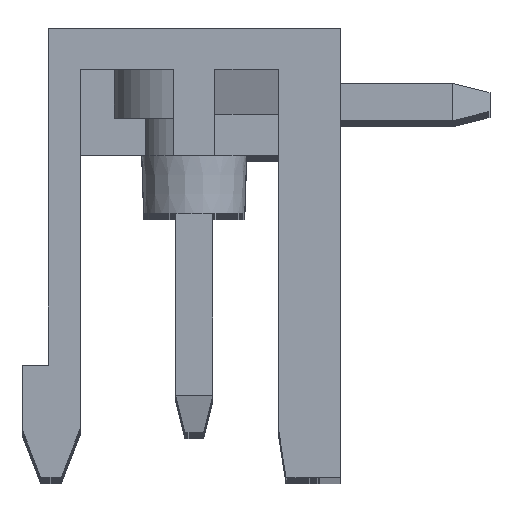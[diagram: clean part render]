
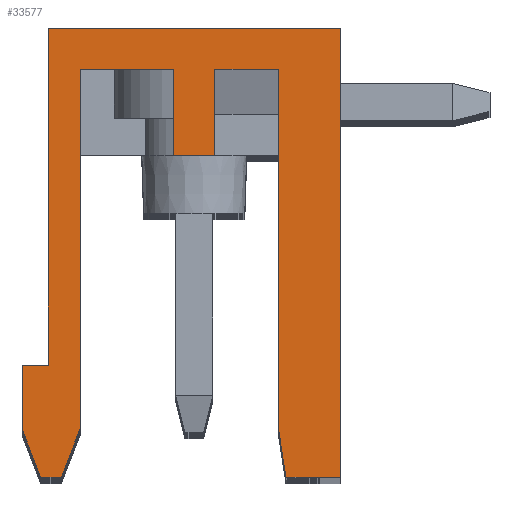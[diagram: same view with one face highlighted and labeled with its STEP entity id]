
A CAD part, top view. The second image highlights one B-rep face of the part: STEP entity #33577.
In plain terms, the highlighted planar face has unit normal (0, 0, 1).
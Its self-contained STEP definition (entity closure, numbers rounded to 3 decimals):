
#57 = VERTEX_POINT ( 'NONE', #10589 ) ;
#70 = CARTESIAN_POINT ( 'NONE',  ( -3.9, 12., 96.52 ) ) ;
#633 = CARTESIAN_POINT ( 'NONE',  ( 2.25, 1.3, 96.52 ) ) ;
#911 = CARTESIAN_POINT ( 'NONE',  ( -3.9, 12., 96.52 ) ) ;
#913 = CARTESIAN_POINT ( 'NONE',  ( -0.55, 10.9, 96.52 ) ) ;
#1320 = CARTESIAN_POINT ( 'NONE',  ( 2.45, 0., 96.52 ) ) ;
#1580 = FACE_OUTER_BOUND ( 'NONE', #32694, .T. ) ;
#1677 = EDGE_CURVE ( 'NONE', #42078, #16079, #39744, .T. ) ;
#3206 = ORIENTED_EDGE ( 'NONE', *, *, #23275, .T. ) ;
#4378 = DIRECTION ( 'NONE',  ( 0., -1., 0. ) ) ;
#5638 = DIRECTION ( 'NONE',  ( 1., 0., 0. ) ) ;
#6044 = DIRECTION ( 'NONE',  ( -1., 0., 0. ) ) ;
#6441 = CARTESIAN_POINT ( 'NONE',  ( -0.55, 10.9, 96.52 ) ) ;
#6530 = VERTEX_POINT ( 'NONE', #27933 ) ;
#6947 = LINE ( 'NONE', #43817, #29412 ) ;
#8110 = VERTEX_POINT ( 'NONE', #10608 ) ;
#8697 = ORIENTED_EDGE ( 'NONE', *, *, #29017, .F. ) ;
#8712 = VECTOR ( 'NONE', #6044, 1000. ) ;
#9632 = VECTOR ( 'NONE', #26949, 1000. ) ;
#9633 = LINE ( 'NONE', #19724, #8712 ) ;
#9720 = CARTESIAN_POINT ( 'NONE',  ( 0.55, 10.9, 96.52 ) ) ;
#10079 = EDGE_CURVE ( 'NONE', #6530, #14635, #12870, .T. ) ;
#10350 = DIRECTION ( 'NONE',  ( -0.359, -0.933, 0. ) ) ;
#10567 = LINE ( 'NONE', #43609, #11795 ) ;
#10589 = CARTESIAN_POINT ( 'NONE',  ( 0.55, 8.6, 96.52 ) ) ;
#10608 = CARTESIAN_POINT ( 'NONE',  ( -3.9, 3., 96.52 ) ) ;
#11265 = DIRECTION ( 'NONE',  ( -1., 0., 0. ) ) ;
#11423 = VERTEX_POINT ( 'NONE', #39880 ) ;
#11795 = VECTOR ( 'NONE', #21116, 1000. ) ;
#12368 = DIRECTION ( 'NONE',  ( 0., 1., 0. ) ) ;
#12870 = LINE ( 'NONE', #27494, #41844 ) ;
#12882 = AXIS2_PLACEMENT_3D ( 'NONE', #31038, #13274, #5638 ) ;
#13096 = VECTOR ( 'NONE', #41424, 1000. ) ;
#13274 = DIRECTION ( 'NONE',  ( 0., 0., 1. ) ) ;
#13325 = CARTESIAN_POINT ( 'NONE',  ( 2.25, 10.9, 96.52 ) ) ;
#13473 = CARTESIAN_POINT ( 'NONE',  ( -4.6, 3., 96.52 ) ) ;
#14220 = VERTEX_POINT ( 'NONE', #25285 ) ;
#14635 = VERTEX_POINT ( 'NONE', #32415 ) ;
#14768 = VERTEX_POINT ( 'NONE', #29788 ) ;
#15016 = ORIENTED_EDGE ( 'NONE', *, *, #42582, .F. ) ;
#15269 = DIRECTION ( 'NONE',  ( 0., -1., 0. ) ) ;
#15639 = VERTEX_POINT ( 'NONE', #911 ) ;
#15669 = DIRECTION ( 'NONE',  ( 1., 0., 0. ) ) ;
#15707 = VECTOR ( 'NONE', #41427, 1000. ) ;
#16070 = EDGE_CURVE ( 'NONE', #16314, #15639, #9633, .T. ) ;
#16079 = VERTEX_POINT ( 'NONE', #24014 ) ;
#16210 = VERTEX_POINT ( 'NONE', #39776 ) ;
#16314 = VERTEX_POINT ( 'NONE', #36885 ) ;
#16433 = LINE ( 'NONE', #9720, #17379 ) ;
#16743 = CARTESIAN_POINT ( 'NONE',  ( -4.1, 0., 96.52 ) ) ;
#17243 = VERTEX_POINT ( 'NONE', #34114 ) ;
#17379 = VECTOR ( 'NONE', #38699, 1000. ) ;
#18390 = LINE ( 'NONE', #34148, #9632 ) ;
#18991 = LINE ( 'NONE', #40297, #41740 ) ;
#19272 = EDGE_CURVE ( 'NONE', #11423, #26100, #16433, .T. ) ;
#19724 = CARTESIAN_POINT ( 'NONE',  ( 3.9, 12., 96.52 ) ) ;
#20137 = ORIENTED_EDGE ( 'NONE', *, *, #33033, .T. ) ;
#20760 = EDGE_CURVE ( 'NONE', #15639, #8110, #44597, .T. ) ;
#21116 = DIRECTION ( 'NONE',  ( -1., 0., 0. ) ) ;
#21288 = VECTOR ( 'NONE', #15269, 1000. ) ;
#21890 = EDGE_CURVE ( 'NONE', #26100, #24896, #28186, .T. ) ;
#22005 = ORIENTED_EDGE ( 'NONE', *, *, #29972, .T. ) ;
#23034 = ORIENTED_EDGE ( 'NONE', *, *, #10079, .F. ) ;
#23275 = EDGE_CURVE ( 'NONE', #24896, #16210, #37253, .T. ) ;
#23571 = ORIENTED_EDGE ( 'NONE', *, *, #19272, .T. ) ;
#24014 = CARTESIAN_POINT ( 'NONE',  ( -4.6, 1.3, 96.52 ) ) ;
#24077 = PLANE ( 'NONE',  #12882 ) ;
#24122 = DIRECTION ( 'NONE',  ( 0., -1., 0. ) ) ;
#24330 = VERTEX_POINT ( 'NONE', #6441 ) ;
#24896 = VERTEX_POINT ( 'NONE', #34328 ) ;
#25285 = CARTESIAN_POINT ( 'NONE',  ( -0.55, 8.6, 96.52 ) ) ;
#26100 = VERTEX_POINT ( 'NONE', #37920 ) ;
#26551 = LINE ( 'NONE', #913, #21288 ) ;
#26600 = LINE ( 'NONE', #44795, #13096 ) ;
#26949 = DIRECTION ( 'NONE',  ( -1., 0., 0. ) ) ;
#26961 = DIRECTION ( 'NONE',  ( 0.152, -0.988, 0. ) ) ;
#27423 = ORIENTED_EDGE ( 'NONE', *, *, #1677, .T. ) ;
#27494 = CARTESIAN_POINT ( 'NONE',  ( -3.05, 10.9, 96.52 ) ) ;
#27933 = CARTESIAN_POINT ( 'NONE',  ( -3.05, 10.9, 96.52 ) ) ;
#28186 = LINE ( 'NONE', #13325, #39592 ) ;
#28205 = VERTEX_POINT ( 'NONE', #47323 ) ;
#28322 = EDGE_CURVE ( 'NONE', #57, #11423, #18991, .T. ) ;
#28802 = ORIENTED_EDGE ( 'NONE', *, *, #21890, .T. ) ;
#28979 = ORIENTED_EDGE ( 'NONE', *, *, #37418, .T. ) ;
#29017 = EDGE_CURVE ( 'NONE', #24330, #6530, #18390, .T. ) ;
#29412 = VECTOR ( 'NONE', #11265, 1000. ) ;
#29553 = VECTOR ( 'NONE', #10350, 1000. ) ;
#29638 = ORIENTED_EDGE ( 'NONE', *, *, #41576, .T. ) ;
#29788 = CARTESIAN_POINT ( 'NONE',  ( 3.9, 0., 96.52 ) ) ;
#29972 = EDGE_CURVE ( 'NONE', #17243, #28205, #30662, .T. ) ;
#30004 = DIRECTION ( 'NONE',  ( 0., 1., 0. ) ) ;
#30662 = LINE ( 'NONE', #16743, #15707 ) ;
#31038 = CARTESIAN_POINT ( 'NONE',  ( -10.2, 16.267, 96.52 ) ) ;
#31061 = ORIENTED_EDGE ( 'NONE', *, *, #20760, .T. ) ;
#32133 = ORIENTED_EDGE ( 'NONE', *, *, #39386, .F. ) ;
#32371 = VECTOR ( 'NONE', #12368, 1000. ) ;
#32415 = CARTESIAN_POINT ( 'NONE',  ( -3.05, 1.3, 96.52 ) ) ;
#32694 = EDGE_LOOP ( 'NONE', ( #29638, #45303, #31061, #35859, #27423, #32133, #22005, #32941, #23034, #8697, #20137, #15016, #37446, #23571, #28802, #3206, #28979 ) ) ;
#32941 = ORIENTED_EDGE ( 'NONE', *, *, #46337, .F. ) ;
#33033 = EDGE_CURVE ( 'NONE', #24330, #14220, #26551, .T. ) ;
#33577 = ADVANCED_FACE ( 'NONE', ( #1580 ), #24077, .T. ) ;
#33812 = VECTOR ( 'NONE', #15669, 1000. ) ;
#34114 = CARTESIAN_POINT ( 'NONE',  ( -4.1, 0., 96.52 ) ) ;
#34148 = CARTESIAN_POINT ( 'NONE',  ( -0.55, 10.9, 96.52 ) ) ;
#34328 = CARTESIAN_POINT ( 'NONE',  ( 2.25, 1.3, 96.52 ) ) ;
#35859 = ORIENTED_EDGE ( 'NONE', *, *, #44008, .T. ) ;
#36393 = DIRECTION ( 'NONE',  ( 0., -1., 0. ) ) ;
#36625 = CARTESIAN_POINT ( 'NONE',  ( -4.6, 3., 96.52 ) ) ;
#36657 = VECTOR ( 'NONE', #26961, 1000. ) ;
#36885 = CARTESIAN_POINT ( 'NONE',  ( 3.9, 12., 96.52 ) ) ;
#37253 = LINE ( 'NONE', #633, #36657 ) ;
#37357 = VECTOR ( 'NONE', #4378, 1000. ) ;
#37418 = EDGE_CURVE ( 'NONE', #16210, #14768, #44423, .T. ) ;
#37446 = ORIENTED_EDGE ( 'NONE', *, *, #28322, .T. ) ;
#37536 = DIRECTION ( 'NONE',  ( 0., -1., 0. ) ) ;
#37920 = CARTESIAN_POINT ( 'NONE',  ( 2.25, 10.9, 96.52 ) ) ;
#38699 = DIRECTION ( 'NONE',  ( 1., 0., 0. ) ) ;
#39386 = EDGE_CURVE ( 'NONE', #17243, #16079, #26600, .T. ) ;
#39592 = VECTOR ( 'NONE', #24122, 1000. ) ;
#39744 = LINE ( 'NONE', #36625, #42214 ) ;
#39776 = CARTESIAN_POINT ( 'NONE',  ( 2.45, 0., 96.52 ) ) ;
#39790 = CARTESIAN_POINT ( 'NONE',  ( -3.05, 1.3, 96.52 ) ) ;
#39880 = CARTESIAN_POINT ( 'NONE',  ( 0.55, 10.9, 96.52 ) ) ;
#40297 = CARTESIAN_POINT ( 'NONE',  ( 0.55, 8.6, 96.52 ) ) ;
#41350 = LINE ( 'NONE', #42060, #32371 ) ;
#41424 = DIRECTION ( 'NONE',  ( -0.359, 0.933, 0. ) ) ;
#41427 = DIRECTION ( 'NONE',  ( 1., 0., 0. ) ) ;
#41576 = EDGE_CURVE ( 'NONE', #14768, #16314, #41350, .T. ) ;
#41740 = VECTOR ( 'NONE', #30004, 1000. ) ;
#41844 = VECTOR ( 'NONE', #37536, 1000. ) ;
#42060 = CARTESIAN_POINT ( 'NONE',  ( 3.9, 0., 96.52 ) ) ;
#42078 = VERTEX_POINT ( 'NONE', #13473 ) ;
#42214 = VECTOR ( 'NONE', #36393, 1000. ) ;
#42582 = EDGE_CURVE ( 'NONE', #57, #14220, #6947, .T. ) ;
#43609 = CARTESIAN_POINT ( 'NONE',  ( -3.9, 3., 96.52 ) ) ;
#43817 = CARTESIAN_POINT ( 'NONE',  ( 0.55, 8.6, 96.52 ) ) ;
#44008 = EDGE_CURVE ( 'NONE', #8110, #42078, #10567, .T. ) ;
#44423 = LINE ( 'NONE', #1320, #33812 ) ;
#44597 = LINE ( 'NONE', #70, #37357 ) ;
#44795 = CARTESIAN_POINT ( 'NONE',  ( -4.1, 0., 96.52 ) ) ;
#45303 = ORIENTED_EDGE ( 'NONE', *, *, #16070, .T. ) ;
#46337 = EDGE_CURVE ( 'NONE', #14635, #28205, #46740, .T. ) ;
#46740 = LINE ( 'NONE', #39790, #29553 ) ;
#47323 = CARTESIAN_POINT ( 'NONE',  ( -3.55, 0., 96.52 ) ) ;
